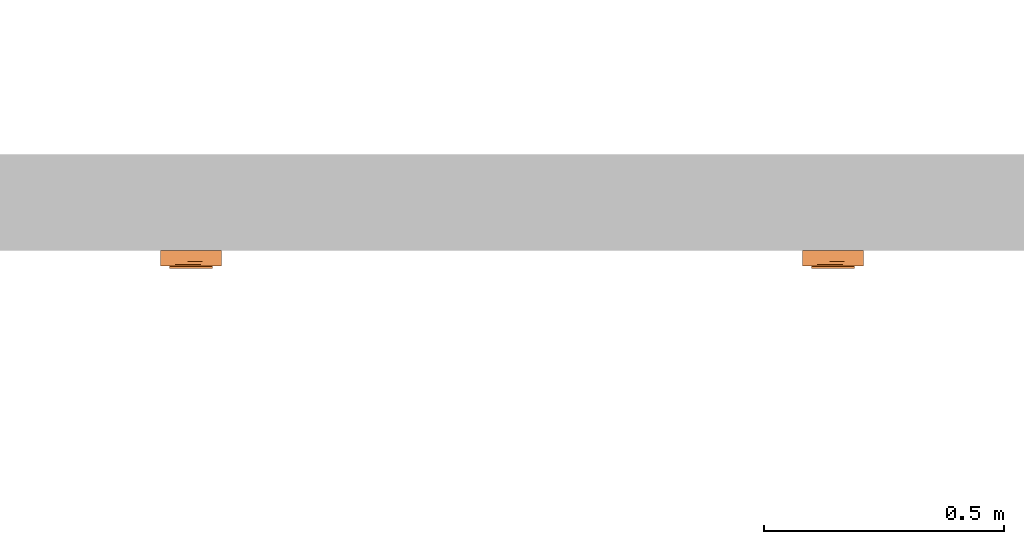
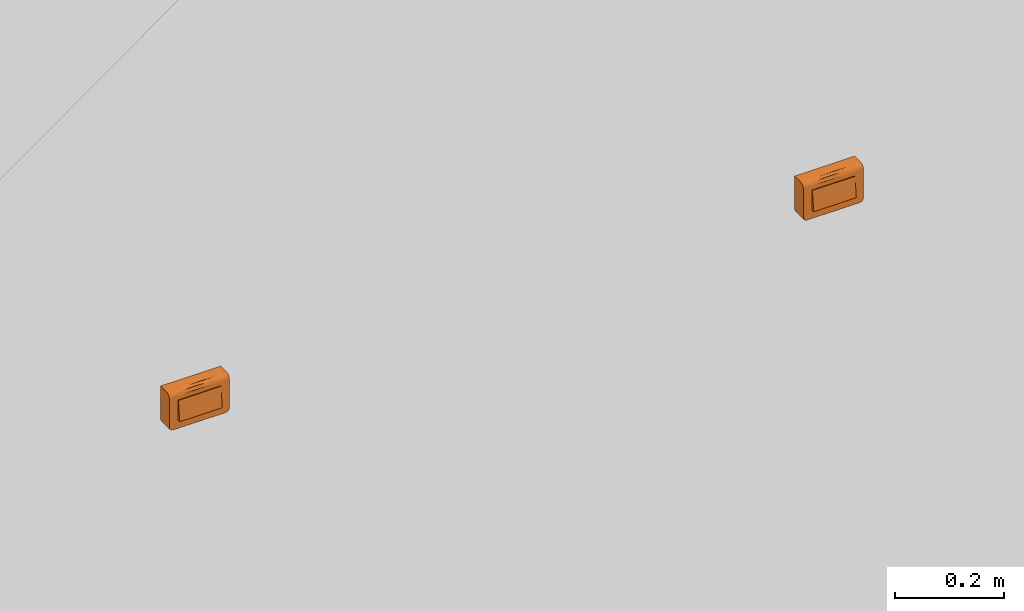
# One storey, part 139 of 197: 2 proxies.
"""IFC2X3 building model written with IfcOpenShell, lengths in metres."""

from ifc_helpers import new_model, entity, si_unit, converted_unit, direction, frame, origin, place, context, subcontext, project, spatial, faceted_brep, source, transform, mapped, material, material_list, type_object, type_shapes, element, save


model = new_model("IFC2X3")

# Units and contexts
model_context = context("Model", 3, precision=1e-05, world=origin(), true_north=direction((6.123031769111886e-17, 1.0)))
body_context = subcontext(model_context, "Body", "Model", "MODEL_VIEW")
ifc_project = project(units=[si_unit("LENGTHUNIT", "METRE"), converted_unit("PLANEANGLEUNIT", "DEGREE", entity("IfcPlaneAngleMeasure", 0.017453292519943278), si_unit("PLANEANGLEUNIT", "RADIAN"), dimensions=[0, 0, 0, 0, 0, 0, 0]), si_unit("AREAUNIT", "SQUARE_METRE")], contexts=[model_context])

# Site, building, storey
site_placement = place(None, origin())
site = spatial("IfcSite", under=ifc_project, at=site_placement, Name="Default", CompositionType="ELEMENT")
building_placement = place(site_placement, origin())
building = spatial("IfcBuilding", under=site, at=building_placement, CompositionType="ELEMENT")
storey_placement = place(building_placement, origin())
storey = spatial("IfcBuildingStorey", under=building, at=storey_placement, Name="Niveau 0", CompositionType="ELEMENT", Elevation=0.0)

# Proxies
ifc_material_1 = material(Name="BETCE-DOIGT-BLANC")
ifc_material_2 = material(Name="BETCE-CADRE-BLANC")
ifc_material_3 = material(Name="BETCE-ENJOLIVEUR-BLANC")
ifc_material_list = material_list([ifc_material_1, ifc_material_2, ifc_material_3])
building_element_proxy_type_1 = type_object("IfcBuildingElementProxyType", Name="Tableau commande 1x4 modules saillie:1 VV + 3 BP", PredefinedType="NOTDEFINED", material=ifc_material_list)
shared_shape_1 = source(origin(), body_context, "Body", "Brep", [
    faceted_brep([(-0.04499999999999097, -0.03350000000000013, 0.022499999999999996), (-0.04499999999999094, -0.038000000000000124, -0.022500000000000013), (-0.022500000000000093, -0.03799999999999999, -0.02249999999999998), (-0.02250000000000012, -0.0335, 0.022499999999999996), (-0.04499999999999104, -0.02299999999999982, -0.022500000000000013), (-0.04499999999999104, -0.02299999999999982, 0.022499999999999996), (-0.022500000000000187, -0.022999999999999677, 0.022499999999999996), (-0.022500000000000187, -0.022999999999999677, -0.022500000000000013)], [[[0, 1, 2, 3]], [[4, 5, 6, 7]], [[5, 4, 1, 0]], [[6, 5, 0, 3]], [[7, 6, 3, 2]], [[4, 7, 2, 1]]]),
    faceted_brep([(0.02250000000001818, -0.03349999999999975, 0.022499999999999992), (0.02250000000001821, -0.03799999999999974, -0.022500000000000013), (0.04500000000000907, -0.03799999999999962, -0.02250000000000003), (0.04500000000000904, -0.03349999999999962, 0.022499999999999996), (0.022500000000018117, -0.02299999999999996, -0.022500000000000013), (0.022500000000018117, -0.02299999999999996, 0.022499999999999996), (0.04500000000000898, -0.022999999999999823, 0.022499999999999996), (0.04500000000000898, -0.022999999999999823, -0.022500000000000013)], [[[0, 1, 2, 3]], [[4, 5, 6, 7]], [[5, 4, 1, 0]], [[6, 5, 0, 3]], [[7, 6, 3, 2]], [[4, 7, 2, 1]]]),
    faceted_brep([(0.0, -0.03349999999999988, 0.022499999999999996), (0.0, -0.03799999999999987, -0.022500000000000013), (0.022499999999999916, -0.03799999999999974, -0.022500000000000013), (0.022499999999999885, -0.03349999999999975, 0.022499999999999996), (0.0, -0.02299999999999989, -0.022500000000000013), (0.0, -0.02299999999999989, 0.022499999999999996), (0.022499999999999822, -0.02299999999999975, 0.022499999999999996), (0.022499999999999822, -0.02299999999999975, -0.022500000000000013)], [[[0, 1, 2, 3]], [[4, 5, 6, 7]], [[5, 4, 1, 0]], [[6, 5, 0, 3]], [[7, 6, 3, 2]], [[4, 7, 2, 1]]]),
    faceted_brep([(0.05550000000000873, -0.02299999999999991, -0.041000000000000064), (0.05757055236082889, -0.0229999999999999, -0.04072740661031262), (0.05950000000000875, -0.022999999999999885, -0.03992820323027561), (0.06115685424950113, -0.022999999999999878, -0.03865685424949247), (0.06242820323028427, -0.022999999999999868, -0.03700000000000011), (0.06322740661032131, -0.022999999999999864, -0.03507055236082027), (0.063500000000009, -0.02299999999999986, -0.033000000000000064), (0.06350000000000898, -0.02299999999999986, 0.04092306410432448), (-0.06349999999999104, -0.023000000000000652, 0.04092306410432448), (-0.06349999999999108, -0.023000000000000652, -0.032999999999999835), (-0.06322740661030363, -0.023000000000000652, -0.03507055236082), (-0.06242820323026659, -0.02300000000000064, -0.03699999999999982), (-0.06115685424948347, -0.023000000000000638, -0.0386568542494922), (-0.05949999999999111, -0.023000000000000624, -0.03992820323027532), (-0.05757055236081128, -0.023000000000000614, -0.040727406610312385), (-0.05549999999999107, -0.0230000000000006, -0.040999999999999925), (-0.05549999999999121, 0.0, -0.04099999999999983), (-0.05757055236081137, 0.0, -0.040727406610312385), (-0.05949999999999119, 0.0, -0.03992820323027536), (-0.061156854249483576, 0.0, -0.03865685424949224), (-0.06242820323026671, 0.0, -0.03699999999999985), (-0.06322740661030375, 0.0, -0.03507055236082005), (-0.06349999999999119, 0.0, -0.032999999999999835), (-0.06349999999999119, 0.0, 0.04092306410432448), (0.06350000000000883, 0.0, 0.04092306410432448), (0.06350000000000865, 0.0, -0.033), (0.0632274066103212, 0.0, -0.03507055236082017), (0.062428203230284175, 0.0, -0.037000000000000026), (0.06115685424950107, 0.0, -0.0386568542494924), (0.059500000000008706, 0.0, -0.039928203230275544), (0.05757055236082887, 0.0, -0.040727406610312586), (0.055500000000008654, 0.0, -0.040999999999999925)], [[[0, 1, 2, 3, 4, 5, 6, 7, 8, 9, 10, 11, 12, 13, 14, 15]], [[16, 17, 18, 19, 20, 21, 22, 23, 24, 25, 26, 27, 28, 29, 30, 31]], [[9, 8, 23, 22]], [[0, 15, 16, 31]], [[7, 6, 25, 24]], [[8, 7, 24, 23]], [[25, 6, 5, 26]], [[26, 5, 4, 27]], [[27, 4, 3, 28]], [[29, 2, 1, 30]], [[30, 1, 0, 31]], [[28, 3, 2, 29]], [[17, 16, 15, 14]], [[18, 17, 14, 13]], [[19, 18, 13, 12]], [[20, 19, 12, 11]], [[21, 20, 11, 10]], [[22, 21, 10, 9]]]),
    faceted_brep([(-0.022500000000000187, -0.02299999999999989, -0.022500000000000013), (-0.022500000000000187, -0.02299999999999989, 0.022499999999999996), (0.0, -0.02299999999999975, 0.022499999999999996), (0.0, -0.02299999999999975, -0.022500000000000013), (-0.022500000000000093, -0.03799999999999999, -0.0225), (-0.02250000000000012, -0.0335, 0.022499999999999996), (0.0, -0.03349999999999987, 0.022499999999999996), (0.0, -0.037999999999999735, -0.022500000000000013)], [[[0, 1, 2, 3]], [[1, 0, 4, 5]], [[2, 1, 5, 6]], [[3, 2, 6, 7]], [[0, 3, 7, 4]], [[5, 4, 7, 6]]]),
    faceted_brep([(0.06350000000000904, -0.031999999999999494, -0.03299999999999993), (0.06350000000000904, -0.031999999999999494, 0.0319999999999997), (0.04500000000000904, -0.031999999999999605, -0.022500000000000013), (0.05550000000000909, -0.03199999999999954, -0.040999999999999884), (0.05757055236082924, -0.03199999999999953, -0.040727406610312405), (0.05950000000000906, -0.03199999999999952, -0.039928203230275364), (0.06115685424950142, -0.03199999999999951, -0.038656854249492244), (0.06322740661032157, -0.031999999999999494, -0.03507055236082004), (0.04500000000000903, -0.031999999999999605, 0.022499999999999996), (-0.04499999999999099, -0.03200000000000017, 0.022499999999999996), (-0.011124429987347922, -0.032000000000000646, 0.031999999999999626), (-0.06349999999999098, -0.032000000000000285, 0.0319999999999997), (-0.04499999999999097, -0.03200000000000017, -0.022500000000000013), (-0.06349999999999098, -0.032000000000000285, -0.032999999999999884), (-0.05549999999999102, -0.03200000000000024, -0.040999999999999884), (-0.057570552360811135, -0.032000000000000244, -0.04072740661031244), (-0.05949999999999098, -0.03200000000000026, -0.0399282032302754), (-0.061156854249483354, -0.032000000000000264, -0.03865685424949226), (-0.06322740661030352, -0.03200000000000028, -0.03507055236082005), (-0.06242820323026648, -0.03200000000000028, -0.03699999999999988), (0.06242820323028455, -0.0319999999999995, -0.03699999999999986), (-0.06349999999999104, -0.023000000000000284, -0.032999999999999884), (-0.06349999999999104, -0.023000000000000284, 0.041000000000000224), (-0.04499999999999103, -0.023000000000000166, 0.022499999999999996), (-0.04499999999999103, -0.023000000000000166, -0.022500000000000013), (-0.05549999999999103, -0.023000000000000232, -0.040999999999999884), (-0.0575705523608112, -0.023000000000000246, -0.04072740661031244), (-0.059499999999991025, -0.023000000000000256, -0.0399282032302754), (-0.06322740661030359, -0.02300000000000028, -0.03507055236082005), (0.04500000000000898, -0.022999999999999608, 0.022499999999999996), (0.011124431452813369, -0.02299999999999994, 0.041000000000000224), (0.06350000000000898, -0.022999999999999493, 0.041000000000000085), (0.06350000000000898, -0.022999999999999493, -0.032999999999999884), (0.04500000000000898, -0.022999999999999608, -0.022500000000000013), (0.055500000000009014, -0.02299999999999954, -0.040999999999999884), (0.05757055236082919, -0.02299999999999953, -0.040727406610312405), (0.059500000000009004, -0.022999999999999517, -0.039928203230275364), (0.06322740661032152, -0.022999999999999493, -0.03507055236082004), (0.061156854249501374, -0.022999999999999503, -0.038656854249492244), (0.06242820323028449, -0.022999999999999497, -0.03699999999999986), (-0.0611568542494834, -0.023000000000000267, -0.03865685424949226), (-0.062428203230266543, -0.023000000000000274, -0.03699999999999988), (0.063500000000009, -0.02532937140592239, 0.04069333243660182), (0.06350000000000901, -0.027499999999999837, 0.039794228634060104), (0.06350000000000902, -0.029363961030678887, 0.03836396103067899), (0.06350000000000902, -0.030794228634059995, 0.03649999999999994), (0.06350000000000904, -0.03169333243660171, 0.03432937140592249), (-0.06349999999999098, -0.03169333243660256, 0.034329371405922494), (-0.063499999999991, -0.030794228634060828, 0.03649999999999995), (-0.063499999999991, -0.029363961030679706, 0.03836396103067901), (-0.06349999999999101, -0.027500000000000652, 0.039794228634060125), (-0.06349999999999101, -0.025329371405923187, 0.04069333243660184), (-0.010857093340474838, -0.02912089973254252, 0.03859807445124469)], [[[0, 1, 2]], [[3, 0, 2]], [[0, 3, 4]], [[0, 4, 5]], [[5, 6, 0]], [[7, 0, 6]], [[2, 1, 8]], [[1, 9, 8]], [[9, 1, 10]], [[9, 10, 11]], [[12, 9, 11]], [[13, 12, 11]], [[14, 12, 13]], [[14, 13, 15]], [[16, 15, 13]], [[13, 17, 16]], [[17, 13, 18]], [[17, 18, 19]], [[12, 14, 3]], [[2, 12, 3]], [[20, 7, 6]], [[21, 22, 23]], [[24, 21, 23]], [[25, 21, 24]], [[21, 25, 26]], [[21, 26, 27]], [[28, 21, 27]], [[22, 29, 23]], [[29, 22, 30]], [[29, 30, 31]], [[32, 29, 31]], [[33, 29, 32]], [[34, 33, 32]], [[34, 32, 35]], [[36, 35, 32]], [[36, 32, 37]], [[37, 38, 36]], [[38, 37, 39]], [[33, 34, 25]], [[24, 33, 25]], [[27, 40, 28]], [[41, 28, 40]], [[1, 0, 32, 31, 42, 43, 44, 45, 46]], [[37, 32, 0, 7]], [[39, 37, 7, 20]], [[38, 39, 20, 6]], [[36, 38, 6, 5]], [[35, 36, 5, 4]], [[34, 35, 4, 3]], [[25, 34, 3, 14]], [[26, 25, 14, 15]], [[27, 26, 15, 16]], [[40, 27, 16, 17]], [[41, 40, 17, 19]], [[28, 41, 19, 18]], [[21, 28, 18, 13]], [[22, 21, 13, 11, 47, 48, 49, 50, 51]], [[52, 10, 45]], [[47, 11, 10]], [[1, 46, 10]], [[44, 52, 45]], [[46, 45, 10]], [[50, 52, 51]], [[48, 47, 10]], [[30, 52, 43]], [[48, 52, 49]], [[42, 31, 30]], [[30, 22, 51]], [[48, 10, 52]], [[30, 43, 42]], [[44, 43, 52]], [[52, 50, 49]], [[52, 30, 51]], [[24, 23, 9, 12]], [[33, 24, 12, 2]], [[29, 33, 2, 8]], [[23, 29, 8, 9]]]),
])
type_shapes(building_element_proxy_type_1, [shared_shape_1])
proxy_1_placement = place(storey_placement, frame((-377.19977966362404, 116.01635778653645, 1.1)))
element("IfcBuildingElementProxy", 1, at=proxy_1_placement, inside=storey, type_object=building_element_proxy_type_1, material=ifc_material_list, Name="Tableau commande 1x4 modules saillie:1 VV + 3 BP", ObjectType="Tableau commande 1x4 modules saillie:1 VV + 3 BP", context=body_context, shape_type="MappedRepresentation", body=[
    mapped(shared_shape_1, transform((0.0, 0.0, 0.0), scale=1.0)),
])
building_element_proxy_type_2 = type_object("IfcBuildingElementProxyType", Name="Tableau commande 1x4 modules saillie:2 SA + 1 BP + 1 VV", PredefinedType="NOTDEFINED", material=ifc_material_list)
shared_shape_2 = source(origin(), body_context, "Body", "Brep", [
    faceted_brep([(-0.04499999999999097, -0.03350000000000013, 0.022499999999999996), (-0.04499999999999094, -0.038000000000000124, -0.022500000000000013), (-0.022500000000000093, -0.03799999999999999, -0.02249999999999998), (-0.02250000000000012, -0.0335, 0.022499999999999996), (-0.04499999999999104, -0.02299999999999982, -0.022500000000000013), (-0.04499999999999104, -0.02299999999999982, 0.022499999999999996), (-0.022500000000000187, -0.022999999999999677, 0.022499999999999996), (-0.022500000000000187, -0.022999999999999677, -0.022500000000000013)], [[[0, 1, 2, 3]], [[4, 5, 6, 7]], [[5, 4, 1, 0]], [[6, 5, 0, 3]], [[7, 6, 3, 2]], [[4, 7, 2, 1]]]),
    faceted_brep([(0.02250000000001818, -0.03349999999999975, 0.022499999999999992), (0.02250000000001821, -0.03799999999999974, -0.022500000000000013), (0.04500000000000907, -0.03799999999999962, -0.02250000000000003), (0.04500000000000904, -0.03349999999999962, 0.022499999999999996), (0.022500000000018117, -0.02299999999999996, -0.022500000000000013), (0.022500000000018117, -0.02299999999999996, 0.022499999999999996), (0.04500000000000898, -0.022999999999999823, 0.022499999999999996), (0.04500000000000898, -0.022999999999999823, -0.022500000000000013)], [[[0, 1, 2, 3]], [[4, 5, 6, 7]], [[5, 4, 1, 0]], [[6, 5, 0, 3]], [[7, 6, 3, 2]], [[4, 7, 2, 1]]]),
    faceted_brep([(0.0, -0.03349999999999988, 0.022499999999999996), (0.0, -0.03799999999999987, -0.022500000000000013), (0.022499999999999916, -0.03799999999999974, -0.022500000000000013), (0.022499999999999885, -0.03349999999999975, 0.022499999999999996), (0.0, -0.02299999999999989, -0.022500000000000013), (0.0, -0.02299999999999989, 0.022499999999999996), (0.022499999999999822, -0.02299999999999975, 0.022499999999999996), (0.022499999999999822, -0.02299999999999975, -0.022500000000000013)], [[[0, 1, 2, 3]], [[4, 5, 6, 7]], [[5, 4, 1, 0]], [[6, 5, 0, 3]], [[7, 6, 3, 2]], [[4, 7, 2, 1]]]),
    faceted_brep([(0.05550000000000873, -0.02299999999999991, -0.041000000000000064), (0.05757055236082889, -0.0229999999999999, -0.04072740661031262), (0.05950000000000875, -0.022999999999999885, -0.03992820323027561), (0.06115685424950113, -0.022999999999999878, -0.03865685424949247), (0.06242820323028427, -0.022999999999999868, -0.03700000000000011), (0.06322740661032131, -0.022999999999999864, -0.03507055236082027), (0.063500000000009, -0.02299999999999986, -0.033000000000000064), (0.06350000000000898, -0.02299999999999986, 0.04092306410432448), (-0.06349999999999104, -0.023000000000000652, 0.04092306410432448), (-0.06349999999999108, -0.023000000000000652, -0.032999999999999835), (-0.06322740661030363, -0.023000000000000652, -0.03507055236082), (-0.06242820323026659, -0.02300000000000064, -0.03699999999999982), (-0.06115685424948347, -0.023000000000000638, -0.0386568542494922), (-0.05949999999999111, -0.023000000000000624, -0.03992820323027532), (-0.05757055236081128, -0.023000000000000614, -0.040727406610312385), (-0.05549999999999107, -0.0230000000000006, -0.040999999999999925), (-0.05549999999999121, 0.0, -0.04099999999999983), (-0.05757055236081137, 0.0, -0.040727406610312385), (-0.05949999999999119, 0.0, -0.03992820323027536), (-0.061156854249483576, 0.0, -0.03865685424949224), (-0.06242820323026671, 0.0, -0.03699999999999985), (-0.06322740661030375, 0.0, -0.03507055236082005), (-0.06349999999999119, 0.0, -0.032999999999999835), (-0.06349999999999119, 0.0, 0.04092306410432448), (0.06350000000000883, 0.0, 0.04092306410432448), (0.06350000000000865, 0.0, -0.033), (0.0632274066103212, 0.0, -0.03507055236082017), (0.062428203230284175, 0.0, -0.037000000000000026), (0.06115685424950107, 0.0, -0.0386568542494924), (0.059500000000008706, 0.0, -0.039928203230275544), (0.05757055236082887, 0.0, -0.040727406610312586), (0.055500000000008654, 0.0, -0.040999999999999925)], [[[0, 1, 2, 3, 4, 5, 6, 7, 8, 9, 10, 11, 12, 13, 14, 15]], [[16, 17, 18, 19, 20, 21, 22, 23, 24, 25, 26, 27, 28, 29, 30, 31]], [[9, 8, 23, 22]], [[0, 15, 16, 31]], [[7, 6, 25, 24]], [[8, 7, 24, 23]], [[25, 6, 5, 26]], [[26, 5, 4, 27]], [[27, 4, 3, 28]], [[29, 2, 1, 30]], [[30, 1, 0, 31]], [[28, 3, 2, 29]], [[17, 16, 15, 14]], [[18, 17, 14, 13]], [[19, 18, 13, 12]], [[20, 19, 12, 11]], [[21, 20, 11, 10]], [[22, 21, 10, 9]]]),
    faceted_brep([(-0.022500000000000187, -0.02299999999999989, -0.022500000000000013), (-0.022500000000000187, -0.02299999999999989, 0.022499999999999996), (0.0, -0.02299999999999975, 0.022499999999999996), (0.0, -0.02299999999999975, -0.022500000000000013), (-0.022500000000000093, -0.03799999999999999, -0.0225), (-0.02250000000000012, -0.0335, 0.022499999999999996), (0.0, -0.03349999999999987, 0.022499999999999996), (0.0, -0.037999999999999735, -0.022500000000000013)], [[[0, 1, 2, 3]], [[1, 0, 4, 5]], [[2, 1, 5, 6]], [[3, 2, 6, 7]], [[0, 3, 7, 4]], [[5, 4, 7, 6]]]),
    faceted_brep([(0.06350000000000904, -0.031999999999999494, -0.03299999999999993), (0.06350000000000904, -0.031999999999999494, 0.0319999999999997), (0.04500000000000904, -0.031999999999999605, -0.022500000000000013), (0.05550000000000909, -0.03199999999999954, -0.040999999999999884), (0.05757055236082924, -0.03199999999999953, -0.040727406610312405), (0.05950000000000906, -0.03199999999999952, -0.039928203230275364), (0.06115685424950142, -0.03199999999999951, -0.038656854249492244), (0.06322740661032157, -0.031999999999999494, -0.03507055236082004), (0.04500000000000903, -0.031999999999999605, 0.022499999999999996), (-0.04499999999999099, -0.03200000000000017, 0.022499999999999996), (-0.011124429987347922, -0.032000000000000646, 0.031999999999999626), (-0.06349999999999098, -0.032000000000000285, 0.0319999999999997), (-0.04499999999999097, -0.03200000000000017, -0.022500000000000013), (-0.06349999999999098, -0.032000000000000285, -0.032999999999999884), (-0.05549999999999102, -0.03200000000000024, -0.040999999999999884), (-0.057570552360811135, -0.032000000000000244, -0.04072740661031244), (-0.05949999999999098, -0.03200000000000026, -0.0399282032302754), (-0.061156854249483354, -0.032000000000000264, -0.03865685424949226), (-0.06322740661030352, -0.03200000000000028, -0.03507055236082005), (-0.06242820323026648, -0.03200000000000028, -0.03699999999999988), (0.06242820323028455, -0.0319999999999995, -0.03699999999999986), (-0.06349999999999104, -0.023000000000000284, -0.032999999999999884), (-0.06349999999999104, -0.023000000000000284, 0.041000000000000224), (-0.04499999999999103, -0.023000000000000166, 0.022499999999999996), (-0.04499999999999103, -0.023000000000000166, -0.022500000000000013), (-0.05549999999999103, -0.023000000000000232, -0.040999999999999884), (-0.0575705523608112, -0.023000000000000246, -0.04072740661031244), (-0.059499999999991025, -0.023000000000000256, -0.0399282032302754), (-0.06322740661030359, -0.02300000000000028, -0.03507055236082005), (0.04500000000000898, -0.022999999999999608, 0.022499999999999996), (0.011124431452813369, -0.02299999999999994, 0.041000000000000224), (0.06350000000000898, -0.022999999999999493, 0.041000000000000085), (0.06350000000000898, -0.022999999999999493, -0.032999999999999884), (0.04500000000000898, -0.022999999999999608, -0.022500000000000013), (0.055500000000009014, -0.02299999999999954, -0.040999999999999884), (0.05757055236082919, -0.02299999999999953, -0.040727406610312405), (0.059500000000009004, -0.022999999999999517, -0.039928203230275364), (0.06322740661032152, -0.022999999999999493, -0.03507055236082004), (0.061156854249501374, -0.022999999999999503, -0.038656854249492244), (0.06242820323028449, -0.022999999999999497, -0.03699999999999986), (-0.0611568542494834, -0.023000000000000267, -0.03865685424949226), (-0.062428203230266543, -0.023000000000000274, -0.03699999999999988), (0.063500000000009, -0.02532937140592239, 0.04069333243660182), (0.06350000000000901, -0.027499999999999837, 0.039794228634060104), (0.06350000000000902, -0.029363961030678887, 0.03836396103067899), (0.06350000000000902, -0.030794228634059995, 0.03649999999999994), (0.06350000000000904, -0.03169333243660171, 0.03432937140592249), (-0.06349999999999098, -0.03169333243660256, 0.034329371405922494), (-0.063499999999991, -0.030794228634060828, 0.03649999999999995), (-0.063499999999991, -0.029363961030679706, 0.03836396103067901), (-0.06349999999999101, -0.027500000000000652, 0.039794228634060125), (-0.06349999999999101, -0.025329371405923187, 0.04069333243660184), (-0.010857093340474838, -0.02912089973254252, 0.03859807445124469)], [[[0, 1, 2]], [[3, 0, 2]], [[0, 3, 4]], [[0, 4, 5]], [[5, 6, 0]], [[7, 0, 6]], [[2, 1, 8]], [[1, 9, 8]], [[9, 1, 10]], [[9, 10, 11]], [[12, 9, 11]], [[13, 12, 11]], [[14, 12, 13]], [[14, 13, 15]], [[16, 15, 13]], [[13, 17, 16]], [[17, 13, 18]], [[17, 18, 19]], [[12, 14, 3]], [[2, 12, 3]], [[20, 7, 6]], [[21, 22, 23]], [[24, 21, 23]], [[25, 21, 24]], [[21, 25, 26]], [[21, 26, 27]], [[28, 21, 27]], [[22, 29, 23]], [[29, 22, 30]], [[29, 30, 31]], [[32, 29, 31]], [[33, 29, 32]], [[34, 33, 32]], [[34, 32, 35]], [[36, 35, 32]], [[36, 32, 37]], [[37, 38, 36]], [[38, 37, 39]], [[33, 34, 25]], [[24, 33, 25]], [[27, 40, 28]], [[41, 28, 40]], [[1, 0, 32, 31, 42, 43, 44, 45, 46]], [[37, 32, 0, 7]], [[39, 37, 7, 20]], [[38, 39, 20, 6]], [[36, 38, 6, 5]], [[35, 36, 5, 4]], [[34, 35, 4, 3]], [[25, 34, 3, 14]], [[26, 25, 14, 15]], [[27, 26, 15, 16]], [[40, 27, 16, 17]], [[41, 40, 17, 19]], [[28, 41, 19, 18]], [[21, 28, 18, 13]], [[22, 21, 13, 11, 47, 48, 49, 50, 51]], [[52, 10, 45]], [[47, 11, 10]], [[1, 46, 10]], [[44, 52, 45]], [[46, 45, 10]], [[50, 52, 51]], [[48, 47, 10]], [[30, 52, 43]], [[48, 52, 49]], [[42, 31, 30]], [[30, 22, 51]], [[48, 10, 52]], [[30, 43, 42]], [[44, 43, 52]], [[52, 50, 49]], [[52, 30, 51]], [[24, 23, 9, 12]], [[33, 24, 12, 2]], [[29, 33, 2, 8]], [[23, 29, 8, 9]]]),
])
type_shapes(building_element_proxy_type_2, [shared_shape_2])
proxy_2_placement = place(storey_placement, frame((-375.85977966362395, 116.01635778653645, 1.1)))
element("IfcBuildingElementProxy", 2, at=proxy_2_placement, inside=storey, type_object=building_element_proxy_type_2, material=ifc_material_list, Name="Tableau commande 1x4 modules saillie:2 SA + 1 BP + 1 VV", ObjectType="Tableau commande 1x4 modules saillie:2 SA + 1 BP + 1 VV", context=body_context, shape_type="MappedRepresentation", body=[
    mapped(shared_shape_2, transform((0.0, 0.0, 0.0), scale=1.0)),
])

save(model, "model.ifc")
